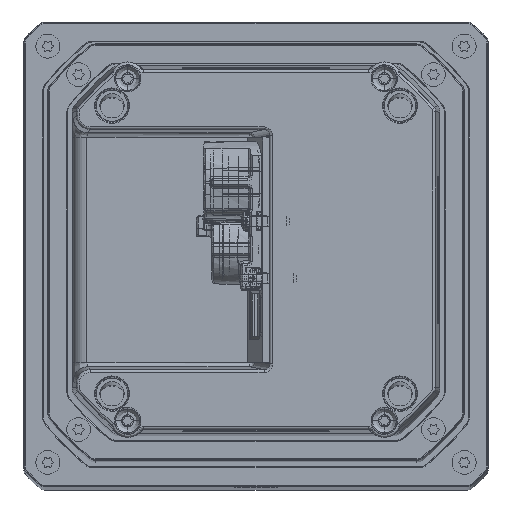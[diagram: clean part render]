
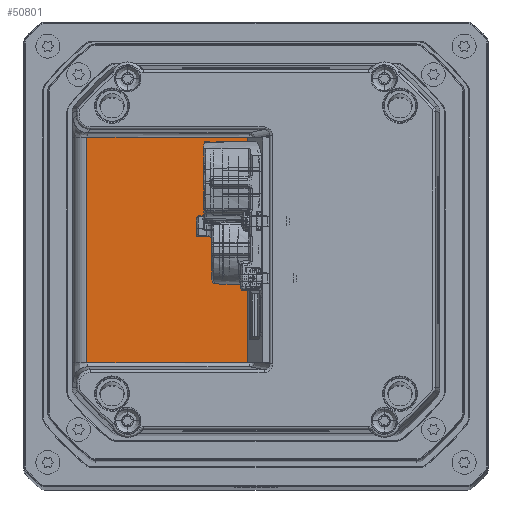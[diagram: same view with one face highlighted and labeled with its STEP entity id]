
A CAD part, top view. The second image highlights one B-rep face of the part: STEP entity #50801.
In plain terms, the highlighted planar face has unit normal (0, 0, 1) as drawn and (0, -1, 0) by its records, which use the part's own axes.
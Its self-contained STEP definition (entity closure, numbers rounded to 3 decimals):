
#46620=DIRECTION('',(0.,0.,-1.));
#46621=VECTOR('',#46620,79.103);
#46622=CARTESIAN_POINT('',(-59.287,32.,39.551));
#46623=LINE('',#46622,#46621);
#46672=DIRECTION('',(-1.,0.,0.));
#46673=VECTOR('',#46672,56.882);
#46674=CARTESIAN_POINT('',(-2.406,32.,39.551));
#46675=LINE('',#46674,#46673);
#46700=DIRECTION('',(0.,0.,1.));
#46701=VECTOR('',#46700,78.108);
#46702=CARTESIAN_POINT('',(-1.901,32.,-39.054));
#46703=LINE('',#46702,#46701);
#46704=CARTESIAN_POINT('',(-2.406,32.,39.551));
#46705=CARTESIAN_POINT('',(-2.379,32.,39.551));
#46706=CARTESIAN_POINT('',(-2.326,32.,39.547));
#46707=CARTESIAN_POINT('',(-2.249,32.,39.529));
#46708=CARTESIAN_POINT('',(-2.176,32.,39.499));
#46709=CARTESIAN_POINT('',(-2.109,32.,39.459));
#46710=CARTESIAN_POINT('',(-2.048,32.,39.408));
#46711=CARTESIAN_POINT('',(-1.997,32.,39.349));
#46712=CARTESIAN_POINT('',(-1.955,32.,39.283));
#46713=CARTESIAN_POINT('',(-1.924,32.,39.21));
#46714=CARTESIAN_POINT('',(-1.905,32.,39.134));
#46715=CARTESIAN_POINT('',(-1.901,32.,39.081));
#46716=CARTESIAN_POINT('',(-1.901,32.,39.054));
#46718=CARTESIAN_POINT('',(-1.901,32.,-39.054));
#46719=CARTESIAN_POINT('',(-1.901,32.,-39.08));
#46720=CARTESIAN_POINT('',(-1.905,32.,-39.132));
#46721=CARTESIAN_POINT('',(-1.924,32.,-39.208));
#46722=CARTESIAN_POINT('',(-1.954,32.,-39.281));
#46723=CARTESIAN_POINT('',(-1.995,32.,-39.347));
#46724=CARTESIAN_POINT('',(-2.046,32.,-39.406));
#46725=CARTESIAN_POINT('',(-2.106,32.,-39.457));
#46726=CARTESIAN_POINT('',(-2.174,32.,-39.498));
#46727=CARTESIAN_POINT('',(-2.247,32.,-39.529));
#46728=CARTESIAN_POINT('',(-2.325,32.,-39.547));
#46729=CARTESIAN_POINT('',(-2.379,32.,-39.551));
#46730=CARTESIAN_POINT('',(-2.406,32.,-39.551));
#46777=DIRECTION('',(1.,0.,0.));
#46778=VECTOR('',#46777,56.882);
#46779=CARTESIAN_POINT('',(-59.287,32.,-39.551));
#46780=LINE('',#46779,#46778);
#48153=CARTESIAN_POINT('',(-59.287,32.,-39.551));
#48154=VERTEX_POINT('',#48153);
#48155=CARTESIAN_POINT('',(-59.287,32.,39.551));
#48156=VERTEX_POINT('',#48155);
#48171=CARTESIAN_POINT('',(-2.406,32.,-39.551));
#48172=VERTEX_POINT('',#48171);
#48173=CARTESIAN_POINT('',(-2.406,32.,39.551));
#48174=VERTEX_POINT('',#48173);
#48175=VERTEX_POINT('',#46716);
#48176=CARTESIAN_POINT('',(-1.901,32.,-39.054));
#48177=VERTEX_POINT('',#48176);
#50786=CARTESIAN_POINT('',(0.,32.,0.));
#50787=DIRECTION('',(0.,-1.,0.));
#50788=DIRECTION('',(1.,0.,0.));
#50789=AXIS2_PLACEMENT_3D('',#50786,#50787,#50788);
#50790=PLANE('',#50789);
#50791=ORIENTED_EDGE('',*,*,#50585,.F.);
#50792=ORIENTED_EDGE('',*,*,#50697,.F.);
#50793=ORIENTED_EDGE('',*,*,#50766,.T.);
#50794=ORIENTED_EDGE('',*,*,#50777,.F.);
#50796=ORIENTED_EDGE('',*,*,#50795,.T.);
#50798=ORIENTED_EDGE('',*,*,#50797,.F.);
#50799=EDGE_LOOP('',(#50791,#50792,#50793,#50794,#50796,#50798));
#50800=FACE_OUTER_BOUND('',#50799,.F.);
#46717=B_SPLINE_CURVE_WITH_KNOTS('',3,(#46704,#46705,#46706,#46707,#46708,
#46709,#46710,#46711,#46712,#46713,#46714,#46715,#46716),.UNSPECIFIED.,.F.,.F.,(
4,1,1,1,1,1,1,1,1,1,4),(0.,0.1,0.2,
0.3,0.399,0.499,0.598,
0.697,0.798,0.899,1.),.UNSPECIFIED.);
#46731=B_SPLINE_CURVE_WITH_KNOTS('',3,(#46718,#46719,#46720,#46721,#46722,
#46723,#46724,#46725,#46726,#46727,#46728,#46729,#46730),.UNSPECIFIED.,.F.,.F.,(
4,1,1,1,1,1,1,1,1,1,4),(0.,0.1,0.199,
0.299,0.398,0.498,0.597,
0.697,0.797,0.898,1.),.UNSPECIFIED.);
#50585=EDGE_CURVE('',#48156,#48154,#46623,.T.);
#50697=EDGE_CURVE('',#48174,#48156,#46675,.T.);
#50766=EDGE_CURVE('',#48174,#48175,#46717,.T.);
#50777=EDGE_CURVE('',#48177,#48175,#46703,.T.);
#50795=EDGE_CURVE('',#48177,#48172,#46731,.T.);
#50797=EDGE_CURVE('',#48154,#48172,#46780,.T.);
#50801=ADVANCED_FACE('',(#50800),#50790,.T.);
